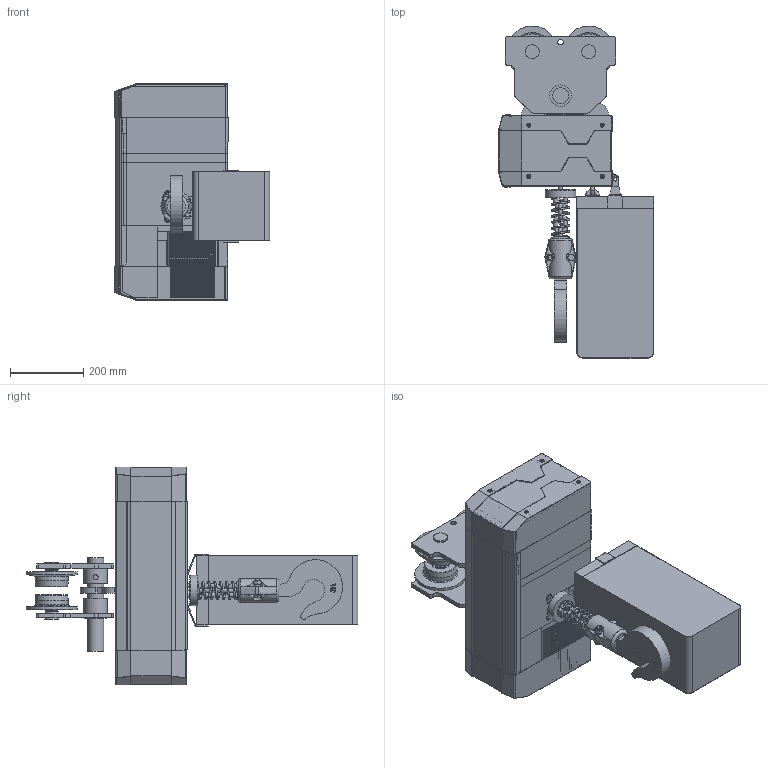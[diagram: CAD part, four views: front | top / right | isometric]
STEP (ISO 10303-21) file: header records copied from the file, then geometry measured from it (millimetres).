
FILE_DESCRIPTION(/* description */ (''),/* implementation_level */ '2;1');
FILE_NAME(/* name */ 'YJ 03-01 手拉式.stp',/* time_stamp */ '2026-07-08T09:10:00+08:00',/* author */ (''),/* organization */ (''),/* preprocessor_version */ 'ST-DEVELOPER v16.7',/* originating_system */ 'SIEMENS PLM Software NX 12.0',/* authorisation */ '');
FILE_SCHEMA (('AUTOMOTIVE_DESIGN { 1 0 10303 214 3 1 1 1 }'));
Products named in the file (1): A95BC464Ftyqn
Bounding box: 424.21 x 904.6 x 593 mm (x, y, z)
Volume: 34881511.5 mm3; surface area: 3161535.3 mm2
Topology: 22 solids, 39 shells, 2812 faces, 7390 edges, 4532 vertices
Faces by surface type: plane 1146, cylinder 1028, torus 291, bspline 144, cone 108, sphere 63, extrusion 32
Full cylindrical faces by diameter (mm): 2 x4, 2.4 x8, 3.5 x4, 5.795 x8, 6 x1, 6.3 x4, 6.4 x2, 6.6 x8, 7.46 x1, 9 x2, 10 x8, 10.3 x13, 10.579 x2, 11.2 x30, 11.701 x2, 13 x2, 13.5 x2, 15 x2, 16.63 x2, 21 x1, 23.2 x4, 25 x12, 30 x2, 31 x1, 33 x4, 33.6 x4, 33.8 x4, 34.2 x4, 37.8 x4, 43.5 x4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
Entity records: 97554 total; most frequent: CARTESIAN_POINT 30699, ORIENTED_EDGE 13718, DIRECTION 13367, EDGE_CURVE 6859, AXIS2_PLACEMENT_3D 4711, VERTEX_POINT 4385, VECTOR 3945, LINE 3913
